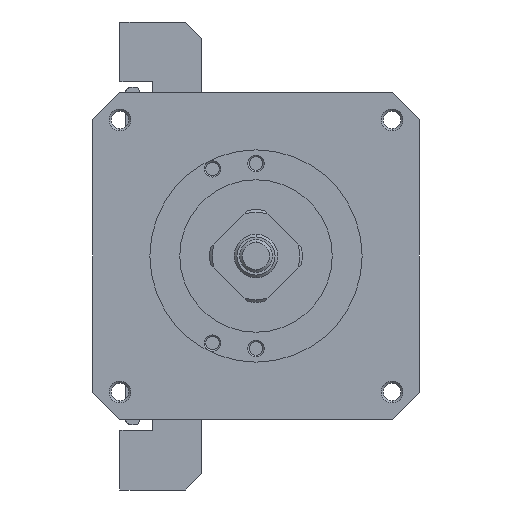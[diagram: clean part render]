
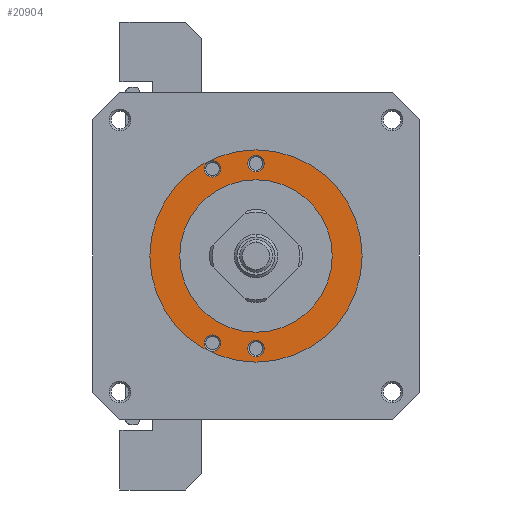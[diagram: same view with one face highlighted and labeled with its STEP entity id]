
A CAD part, left-side view. The second image highlights one B-rep face of the part: STEP entity #20904.
In plain terms, the highlighted planar face has unit normal (-1, 0, 0).
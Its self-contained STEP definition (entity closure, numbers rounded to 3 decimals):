
#323 = VERTEX_POINT ( 'NONE', #6445 ) ;
#324 = VERTEX_POINT ( 'NONE', #6446 ) ;
#325 = VERTEX_POINT ( 'NONE', #6447 ) ;
#326 = VERTEX_POINT ( 'NONE', #6448 ) ;
#327 = VERTEX_POINT ( 'NONE', #6449 ) ;
#328 = VERTEX_POINT ( 'NONE', #6450 ) ;
#329 = VERTEX_POINT ( 'NONE', #6451 ) ;
#330 = VERTEX_POINT ( 'NONE', #6452 ) ;
#341 = VERTEX_POINT ( 'NONE', #6463 ) ;
#342 = VERTEX_POINT ( 'NONE', #6464 ) ;
#398 = VERTEX_POINT ( 'NONE', #6520 ) ;
#399 = VERTEX_POINT ( 'NONE', #6521 ) ;
#2845 = EDGE_LOOP ( 'NONE', ( #20275, #20276 ) ) ;
#2846 = EDGE_LOOP ( 'NONE', ( #20273, #20274 ) ) ;
#2847 = EDGE_LOOP ( 'NONE', ( #20271, #20272 ) ) ;
#2848 = EDGE_LOOP ( 'NONE', ( #20269, #20270 ) ) ;
#2849 = EDGE_LOOP ( 'NONE', ( #20267, #20268 ) ) ;
#2850 = EDGE_LOOP ( 'NONE', ( #20265, #20266 ) ) ;
#4038 = EDGE_CURVE ( 'NONE', #342, #341, #10477, .T. ) ;
#4102 = EDGE_CURVE ( 'NONE', #398, #399, #10574, .T. ) ;
#5397 = AXIS2_PLACEMENT_3D ( 'NONE', #9789, #9790, #9791 ) ;
#5428 = AXIS2_PLACEMENT_3D ( 'NONE', #9948, #9949, #9950 ) ;
#6445 = CARTESIAN_POINT ( 'NONE',  ( -64., 8., -14.5 ) ) ;
#6446 = CARTESIAN_POINT ( 'NONE',  ( -64., 8., -17.5 ) ) ;
#6447 = CARTESIAN_POINT ( 'NONE',  ( -64., 0., 18.5 ) ) ;
#6448 = CARTESIAN_POINT ( 'NONE',  ( -64., 0., 15.5 ) ) ;
#6449 = CARTESIAN_POINT ( 'NONE',  ( -64., 8., 17.5 ) ) ;
#6450 = CARTESIAN_POINT ( 'NONE',  ( -64., 8., 14.5 ) ) ;
#6451 = CARTESIAN_POINT ( 'NONE',  ( -64., 0., -15.5 ) ) ;
#6452 = CARTESIAN_POINT ( 'NONE',  ( -64., 0., -18.5 ) ) ;
#6463 = CARTESIAN_POINT ( 'NONE',  ( -64., 0., -19.5 ) ) ;
#6464 = CARTESIAN_POINT ( 'NONE',  ( -64., 0., 19.5 ) ) ;
#6520 = CARTESIAN_POINT ( 'NONE',  ( -64., 0., 14. ) ) ;
#6521 = CARTESIAN_POINT ( 'NONE',  ( -64., 0., -14. ) ) ;
#9789 = CARTESIAN_POINT ( 'NONE',  ( -64., 0., 0. ) ) ;
#9790 = DIRECTION ( 'NONE',  ( 1., 0., 0. ) ) ;
#9791 = DIRECTION ( 'NONE',  ( 0., 0., 1. ) ) ;
#9948 = CARTESIAN_POINT ( 'NONE',  ( -64., 0., 0. ) ) ;
#9949 = DIRECTION ( 'NONE',  ( 1., 0., 0. ) ) ;
#9950 = DIRECTION ( 'NONE',  ( 0., 0., 1. ) ) ;
#10477 = CIRCLE ( 'NONE', #5397, 19.5 ) ;
#10574 = CIRCLE ( 'NONE', #5428, 14. ) ;
#16338 = CIRCLE ( 'NONE', #17246, 1.5 ) ;
#16351 = CIRCLE ( 'NONE', #17249, 1.5 ) ;
#16354 = CIRCLE ( 'NONE', #17250, 1.5 ) ;
#16359 = CIRCLE ( 'NONE', #17251, 1.5 ) ;
#16362 = CIRCLE ( 'NONE', #17253, 1.5 ) ;
#16364 = CIRCLE ( 'NONE', #17255, 1.5 ) ;
#16366 = CIRCLE ( 'NONE', #17257, 1.5 ) ;
#16368 = CIRCLE ( 'NONE', #17259, 1.5 ) ;
#16377 = CIRCLE ( 'NONE', #17268, 19.5 ) ;
#16388 = CIRCLE ( 'NONE', #17278, 14. ) ;
#16854 = FACE_OUTER_BOUND ( 'NONE', #2850, .T. ) ;
#16855 = FACE_BOUND ( 'NONE', #2849, .T. ) ;
#16856 = FACE_BOUND ( 'NONE', #2848, .T. ) ;
#16857 = FACE_BOUND ( 'NONE', #2847, .T. ) ;
#16858 = FACE_BOUND ( 'NONE', #2846, .T. ) ;
#16859 = FACE_BOUND ( 'NONE', #2845, .T. ) ;
#17246 = AXIS2_PLACEMENT_3D ( 'NONE', #17766, #17767, #17768 ) ;
#17249 = AXIS2_PLACEMENT_3D ( 'NONE', #17785, #17786, #17787 ) ;
#17250 = AXIS2_PLACEMENT_3D ( 'NONE', #17790, #17791, #17792 ) ;
#17251 = AXIS2_PLACEMENT_3D ( 'NONE', #17797, #17798, #17799 ) ;
#17253 = AXIS2_PLACEMENT_3D ( 'NONE', #17805, #17806, #17807 ) ;
#17255 = AXIS2_PLACEMENT_3D ( 'NONE', #17811, #17812, #17813 ) ;
#17257 = AXIS2_PLACEMENT_3D ( 'NONE', #17817, #17818, #17819 ) ;
#17259 = AXIS2_PLACEMENT_3D ( 'NONE', #17823, #17824, #17825 ) ;
#17268 = AXIS2_PLACEMENT_3D ( 'NONE', #17850, #17851, #17852 ) ;
#17278 = AXIS2_PLACEMENT_3D ( 'NONE', #17880, #17881, #17882 ) ;
#17482 = AXIS2_PLACEMENT_3D ( 'NONE', #18745, #18746, #18747 ) ;
#17766 = CARTESIAN_POINT ( 'NONE',  ( -64., 0., -17. ) ) ;
#17767 = DIRECTION ( 'NONE',  ( -1., 0., 0. ) ) ;
#17768 = DIRECTION ( 'NONE',  ( 0., 0., 1. ) ) ;
#17785 = CARTESIAN_POINT ( 'NONE',  ( -64., 8., 16. ) ) ;
#17786 = DIRECTION ( 'NONE',  ( -1., 0., 0. ) ) ;
#17787 = DIRECTION ( 'NONE',  ( 0., 0., 1. ) ) ;
#17790 = CARTESIAN_POINT ( 'NONE',  ( -64., 0., 17. ) ) ;
#17791 = DIRECTION ( 'NONE',  ( -1., 0., 0. ) ) ;
#17792 = DIRECTION ( 'NONE',  ( 0., 0., 1. ) ) ;
#17797 = CARTESIAN_POINT ( 'NONE',  ( -64., 8., -16. ) ) ;
#17798 = DIRECTION ( 'NONE',  ( -1., 0., 0. ) ) ;
#17799 = DIRECTION ( 'NONE',  ( 0., 0., 1. ) ) ;
#17805 = CARTESIAN_POINT ( 'NONE',  ( -64., 8., -16. ) ) ;
#17806 = DIRECTION ( 'NONE',  ( -1., 0., 0. ) ) ;
#17807 = DIRECTION ( 'NONE',  ( 0., 0., 1. ) ) ;
#17811 = CARTESIAN_POINT ( 'NONE',  ( -64., 0., 17. ) ) ;
#17812 = DIRECTION ( 'NONE',  ( -1., 0., 0. ) ) ;
#17813 = DIRECTION ( 'NONE',  ( 0., 0., 1. ) ) ;
#17817 = CARTESIAN_POINT ( 'NONE',  ( -64., 8., 16. ) ) ;
#17818 = DIRECTION ( 'NONE',  ( -1., 0., 0. ) ) ;
#17819 = DIRECTION ( 'NONE',  ( 0., 0., 1. ) ) ;
#17823 = CARTESIAN_POINT ( 'NONE',  ( -64., 0., -17. ) ) ;
#17824 = DIRECTION ( 'NONE',  ( -1., 0., 0. ) ) ;
#17825 = DIRECTION ( 'NONE',  ( 0., 0., 1. ) ) ;
#17850 = CARTESIAN_POINT ( 'NONE',  ( -64., 0., 0. ) ) ;
#17851 = DIRECTION ( 'NONE',  ( 1., 0., 0. ) ) ;
#17852 = DIRECTION ( 'NONE',  ( 0., 0., 1. ) ) ;
#17880 = CARTESIAN_POINT ( 'NONE',  ( -64., 0., 0. ) ) ;
#17881 = DIRECTION ( 'NONE',  ( 1., 0., 0. ) ) ;
#17882 = DIRECTION ( 'NONE',  ( 0., 0., 1. ) ) ;
#18744 = PLANE ( 'NONE',  #17482 ) ;
#18745 = CARTESIAN_POINT ( 'NONE',  ( -64., 16.75, 0. ) ) ;
#18746 = DIRECTION ( 'NONE',  ( 1., 0., 0. ) ) ;
#18747 = DIRECTION ( 'NONE',  ( 0., 0., -1. ) ) ;
#20265 = ORIENTED_EDGE ( 'NONE', *, *, #4038, .F. ) ;
#20266 = ORIENTED_EDGE ( 'NONE', *, *, #20598, .F. ) ;
#20267 = ORIENTED_EDGE ( 'NONE', *, *, #4102, .T. ) ;
#20268 = ORIENTED_EDGE ( 'NONE', *, *, #20608, .T. ) ;
#20269 = ORIENTED_EDGE ( 'NONE', *, *, #20589, .F. ) ;
#20270 = ORIENTED_EDGE ( 'NONE', *, *, #20567, .F. ) ;
#20271 = ORIENTED_EDGE ( 'NONE', *, *, #20587, .F. ) ;
#20272 = ORIENTED_EDGE ( 'NONE', *, *, #20575, .F. ) ;
#20273 = ORIENTED_EDGE ( 'NONE', *, *, #20585, .F. ) ;
#20274 = ORIENTED_EDGE ( 'NONE', *, *, #20577, .F. ) ;
#20275 = ORIENTED_EDGE ( 'NONE', *, *, #20583, .F. ) ;
#20276 = ORIENTED_EDGE ( 'NONE', *, *, #20580, .F. ) ;
#20567 = EDGE_CURVE ( 'NONE', #330, #329, #16338, .T. ) ;
#20575 = EDGE_CURVE ( 'NONE', #328, #327, #16351, .T. ) ;
#20577 = EDGE_CURVE ( 'NONE', #326, #325, #16354, .T. ) ;
#20580 = EDGE_CURVE ( 'NONE', #324, #323, #16359, .T. ) ;
#20583 = EDGE_CURVE ( 'NONE', #323, #324, #16362, .T. ) ;
#20585 = EDGE_CURVE ( 'NONE', #325, #326, #16364, .T. ) ;
#20587 = EDGE_CURVE ( 'NONE', #327, #328, #16366, .T. ) ;
#20589 = EDGE_CURVE ( 'NONE', #329, #330, #16368, .T. ) ;
#20598 = EDGE_CURVE ( 'NONE', #341, #342, #16377, .T. ) ;
#20608 = EDGE_CURVE ( 'NONE', #399, #398, #16388, .T. ) ;
#20904 = ADVANCED_FACE ( 'NONE', ( #16854, #16855, #16856, #16857, #16858, #16859 ), #18744, .F. ) ;
